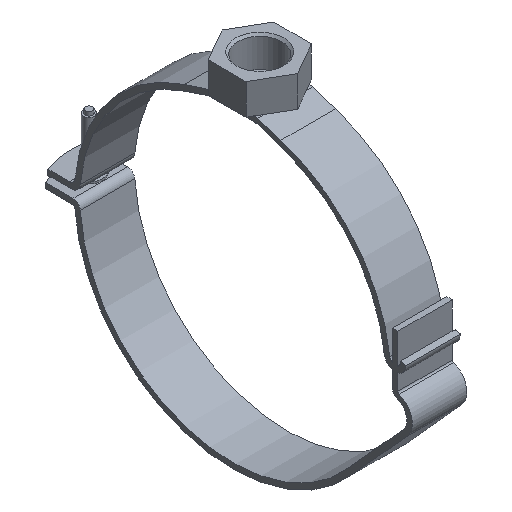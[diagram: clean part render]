
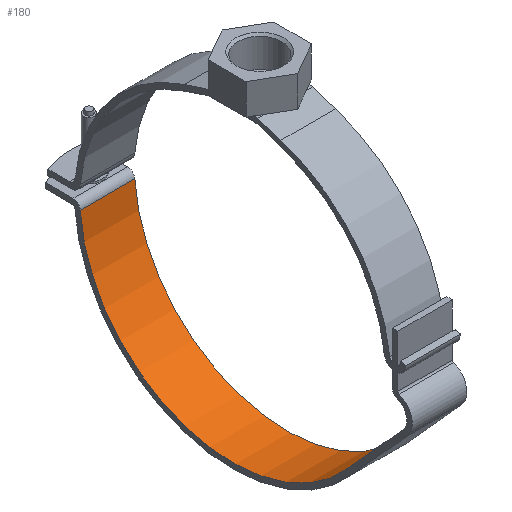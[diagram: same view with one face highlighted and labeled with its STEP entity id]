
A CAD part, isometric view. The second image highlights one B-rep face of the part: STEP entity #180.
In plain terms, the highlighted cylindrical face has radius 84 mm (diameter 168 mm), a partial arc.
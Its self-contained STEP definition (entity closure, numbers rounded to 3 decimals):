
#180 = ADVANCED_FACE( '', ( #391 ), #392, .F. );
#391 = FACE_OUTER_BOUND( '', #630, .T. );
#392 = CYLINDRICAL_SURFACE( '', #631, 84. );
#630 = EDGE_LOOP( '', ( #1144, #1145, #1146, #1147 ) );
#631 = AXIS2_PLACEMENT_3D( '', #1148, #1149, #1150 );
#1144 = ORIENTED_EDGE( '', *, *, #1420, .F. );
#1145 = ORIENTED_EDGE( '', *, *, #1586, .F. );
#1146 = ORIENTED_EDGE( '', *, *, #1498, .T. );
#1147 = ORIENTED_EDGE( '', *, *, #1578, .T. );
#1148 = CARTESIAN_POINT( '', ( 15., 0., 0. ) );
#1149 = DIRECTION( '', ( 1., 0., 0. ) );
#1150 = DIRECTION( '', ( 0., 0., 1. ) );
#1420 = EDGE_CURVE( '', #1713, #1715, #1716, .T. );
#1498 = EDGE_CURVE( '', #1839, #1837, #1840, .T. );
#1578 = EDGE_CURVE( '', #1837, #1715, #1953, .T. );
#1586 = EDGE_CURVE( '', #1839, #1713, #1961, .T. );
#1713 = VERTEX_POINT( '', #2110 );
#1715 = VERTEX_POINT( '', #2112 );
#1716 = CIRCLE( '', #2113, 84. );
#1837 = VERTEX_POINT( '', #2276 );
#1839 = VERTEX_POINT( '', #2278 );
#1840 = CIRCLE( '', #2279, 84. );
#1953 = LINE( '', #2432, #2433 );
#1961 = LINE( '', #2444, #2445 );
#2110 = CARTESIAN_POINT( '', ( -15., -63.825, -54.611 ) );
#2112 = CARTESIAN_POINT( '', ( -15., 83.805, -5.727 ) );
#2113 = AXIS2_PLACEMENT_3D( '', #2588, #2589, #2590 );
#2276 = CARTESIAN_POINT( '', ( 15., 83.805, -5.727 ) );
#2278 = CARTESIAN_POINT( '', ( 15., -63.825, -54.611 ) );
#2279 = AXIS2_PLACEMENT_3D( '', #2681, #2682, #2683 );
#2432 = CARTESIAN_POINT( '', ( 15., 83.805, -5.727 ) );
#2433 = VECTOR( '', #2784, 1000. );
#2444 = CARTESIAN_POINT( '', ( 15., -63.825, -54.611 ) );
#2445 = VECTOR( '', #2788, 1000. );
#2588 = CARTESIAN_POINT( '', ( -15., 0., 0. ) );
#2589 = DIRECTION( '', ( 1., 0., 0. ) );
#2590 = DIRECTION( '', ( 0., 0., -1. ) );
#2681 = CARTESIAN_POINT( '', ( 15., 0., 0. ) );
#2682 = DIRECTION( '', ( 1., 0., 0. ) );
#2683 = DIRECTION( '', ( 0., 0., -1. ) );
#2784 = DIRECTION( '', ( -1., 0., 0. ) );
#2788 = DIRECTION( '', ( -1., 0., 0. ) );
